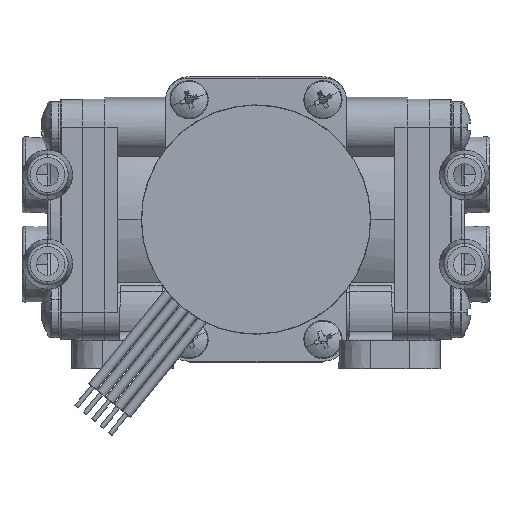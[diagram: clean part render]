
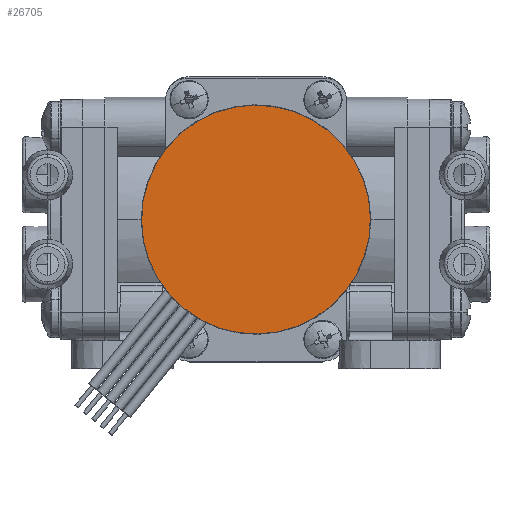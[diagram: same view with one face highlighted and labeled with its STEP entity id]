
A CAD part, front view. The second image highlights one B-rep face of the part: STEP entity #26705.
In plain terms, the highlighted planar face has unit normal (0, -1, 0).
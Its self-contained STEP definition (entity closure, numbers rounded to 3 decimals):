
#168 = ORIENTED_EDGE ( 'NONE', *, *, #20412, .F. ) ;
#703 = CARTESIAN_POINT ( 'NONE',  ( -13.95, -56., 11.296 ) ) ;
#2806 = DIRECTION ( 'NONE',  ( 0.777, 0., -0.629 ) ) ;
#3247 = CIRCLE ( 'NONE', #11440, 17.95 ) ;
#4939 = DIRECTION ( 'NONE',  ( 0., 1., 0. ) ) ;
#5025 = CARTESIAN_POINT ( 'NONE',  ( -13.95, -56., 11.296 ) ) ;
#5280 = VERTEX_POINT ( 'NONE', #5025 ) ;
#6097 = ORIENTED_EDGE ( 'NONE', *, *, #16887, .F. ) ;
#8548 = VERTEX_POINT ( 'NONE', #8869 ) ;
#8869 = CARTESIAN_POINT ( 'NONE',  ( 13.95, -56., -11.296 ) ) ;
#10585 = CARTESIAN_POINT ( 'NONE',  ( 0., -56., 0. ) ) ;
#11440 = AXIS2_PLACEMENT_3D ( 'NONE', #17354, #4939, #19417 ) ;
#12656 = DIRECTION ( 'NONE',  ( 0.777, 0., -0.629 ) ) ;
#15199 = DIRECTION ( 'NONE',  ( 0., 1., 0. ) ) ;
#16887 = EDGE_CURVE ( 'NONE', #8548, #5280, #21833, .T. ) ;
#17354 = CARTESIAN_POINT ( 'NONE',  ( 0., -56., 0. ) ) ;
#18347 = AXIS2_PLACEMENT_3D ( 'NONE', #10585, #25040, #12656 ) ;
#18708 = EDGE_LOOP ( 'NONE', ( #6097, #168 ) ) ;
#19262 = PLANE ( 'NONE',  #19657 ) ;
#19417 = DIRECTION ( 'NONE',  ( 0.777, 0., -0.629 ) ) ;
#19657 = AXIS2_PLACEMENT_3D ( 'NONE', #703, #15199, #2806 ) ;
#20412 = EDGE_CURVE ( 'NONE', #5280, #8548, #3247, .T. ) ;
#20898 = FACE_OUTER_BOUND ( 'NONE', #18708, .T. ) ;
#21833 = CIRCLE ( 'NONE', #18347, 17.95 ) ;
#25040 = DIRECTION ( 'NONE',  ( 0., 1., 0. ) ) ;
#26705 = ADVANCED_FACE ( 'NONE', ( #20898 ), #19262, .F. ) ;
